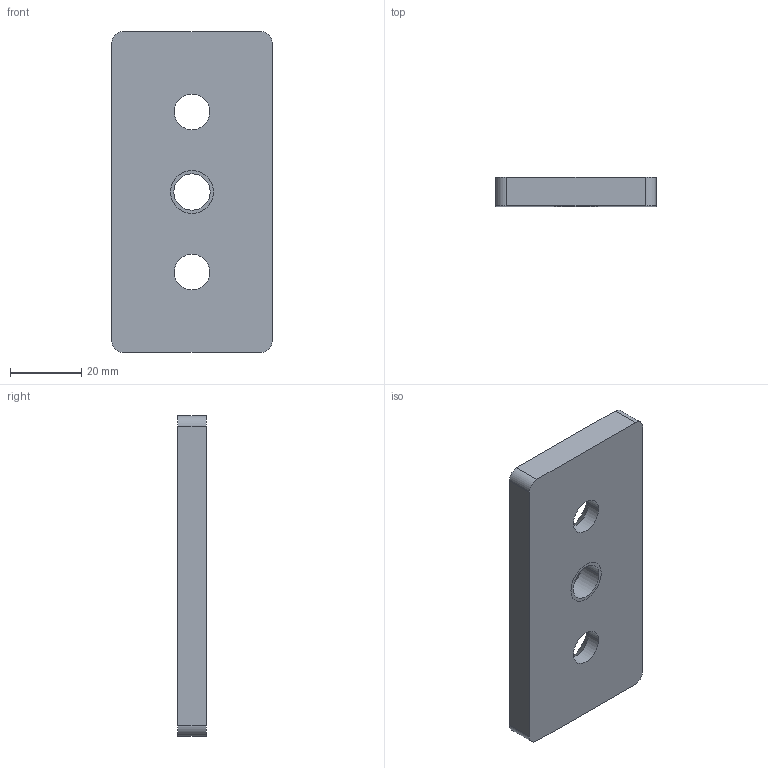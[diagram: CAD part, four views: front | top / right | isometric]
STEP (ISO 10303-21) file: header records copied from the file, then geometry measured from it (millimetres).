
FILE_DESCRIPTION((''),'2;1');
FILE_NAME('TAF459012','2002-12-27T',('Lipro doo'),('Lipro d.o.o.'),'PRO/ENGINEER BY PARAMETRIC TECHNOLOGY CORPORATION, 2001150','PRO/ENGINEER BY PARAMETRIC TECHNOLOGY CORPORATION, 2001150','');
FILE_SCHEMA(('CONFIG_CONTROL_DESIGN'));
Length unit declared in the file: millimetre
Products named in the file (1): TAF459012
Bounding box: 45 x 8 x 90 mm (x, y, z)
Volume: 29762.9 mm3; surface area: 10644.8 mm2
Topology: 1 solids, 2 shells, 24 faces, 60 edges, 38 vertices
Faces by surface type: cylinder 12, plane 6, cone 6
Entity records: 782 total; most frequent: DIRECTION 140, CARTESIAN_POINT 123, ORIENTED_EDGE 116, EDGE_CURVE 60, AXIS2_PLACEMENT_3D 55, VERTEX_POINT 38, VECTOR 30, LINE 30
